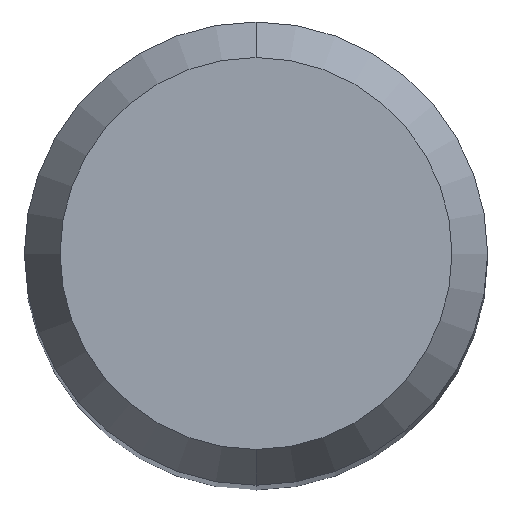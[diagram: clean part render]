
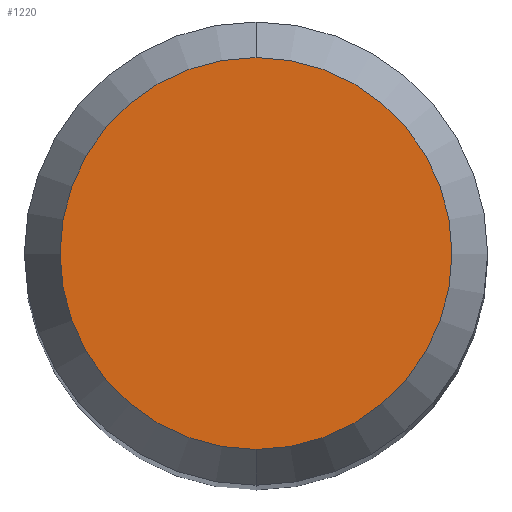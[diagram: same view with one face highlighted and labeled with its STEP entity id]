
A CAD part, top view. The second image highlights one B-rep face of the part: STEP entity #1220.
In plain terms, the highlighted planar face has unit normal (0, 0, 1).
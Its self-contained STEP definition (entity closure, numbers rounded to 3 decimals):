
#774=VERTEX_POINT('',#2197);
#1220=ADVANCED_FACE('',(#2684),#2685,.T.);
#1710=VERTEX_POINT('',#3212);
#1972=EDGE_CURVE('',#774,#1710,#3506,.T.);
#2042=EDGE_CURVE('',#1710,#774,#3582,.T.);
#2197=CARTESIAN_POINT('',(0.0,2.538,0.0));
#2684=FACE_OUTER_BOUND('',#9232,.T.);
#2685=PLANE('',#9233);
#3212=CARTESIAN_POINT('',(0.,-2.538,0.0));
#3506=CIRCLE('',#16112,2.538);
#3582=CIRCLE('',#16476,2.538);
#9232=EDGE_LOOP('',(#17409,#17410));
#9233=AXIS2_PLACEMENT_3D('',#17411,#17412,#17413);
#16112=AXIS2_PLACEMENT_3D('',#18200,#18201,#18202);
#16476=AXIS2_PLACEMENT_3D('',#18302,#18303,#18304);
#17409=ORIENTED_EDGE('',*,*,#1972,.F.);
#17410=ORIENTED_EDGE('',*,*,#2042,.F.);
#17411=CARTESIAN_POINT('',(0.0,1.269,0.0));
#17412=DIRECTION('',(-0.0,0.0,1.0));
#17413=DIRECTION('',(0.0,-1.0,0.0));
#18200=CARTESIAN_POINT('',(0.0,0.0,0.0));
#18201=DIRECTION('',(0.0,0.0,-1.0));
#18202=DIRECTION('',(0.0,1.0,0.0));
#18302=CARTESIAN_POINT('',(0.0,0.0,0.0));
#18303=DIRECTION('',(0.0,0.0,-1.0));
#18304=DIRECTION('',(0.0,1.0,0.0));
